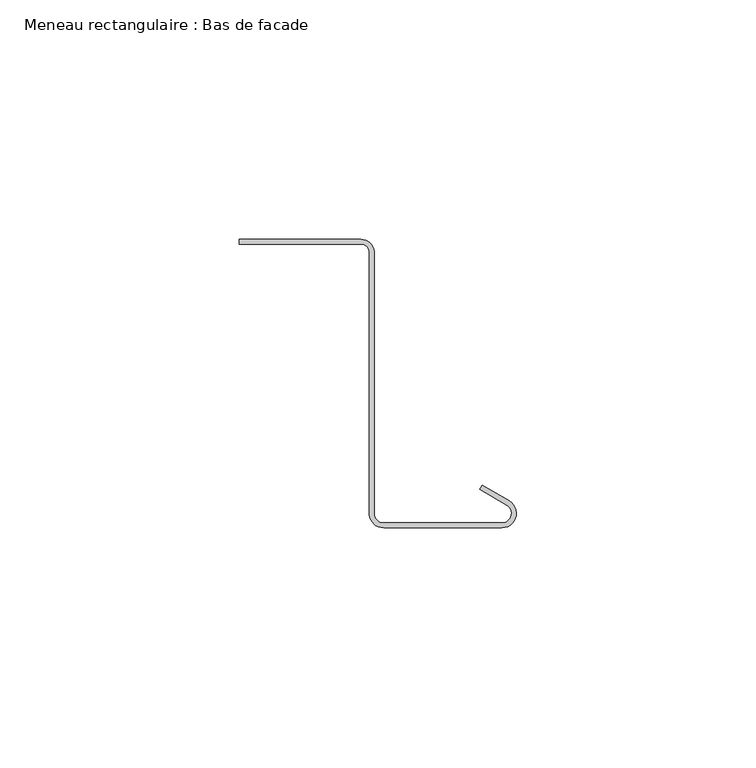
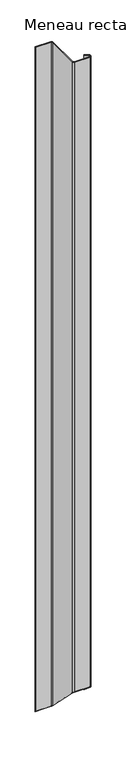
"""IFC4 building model written with IfcOpenShell, lengths in millimetres: member geometry, Meneau rectangulaire : Bas de facade."""

import ifcopenshell
import ifcopenshell.guid

model = None  # the IFC model being written
_history = None  # IfcOwnerHistory: only IFC2X3 demands one
_inside = {}  # id of a spatial element -> (the spatial element, [elements in it])
_under = {}  # id of a project, library or spatial element -> (it, [spatial elements below it])
_declared = {}  # id of a project -> (the project, [libraries it declares])
_typed = {}  # id of a type object -> (the type object, [elements of that type])
_made_of = {}  # id of a material, layer set ... -> (it, [elements and type objects made of it])


def new_model(schema):
    """Start an empty IFC model of exactly this schema.

    Asked for "IFC4X3", IfcOpenShell would pick the latest addendum, in which some entities
    have other attributes; the version numbers below select the first issue.
    IFC2X3 requires an IfcOwnerHistory on every rooted entity: one is made here for all.
    """
    global model, _history
    if schema == "IFC4X3":
        model = ifcopenshell.file(schema_version=(4, 3, 0, 0))
    else:
        model = ifcopenshell.file(schema=schema)
    _inside.clear()
    _under.clear()
    _declared.clear()
    _typed.clear()
    _made_of.clear()
    _history = None
    if model.schema == "IFC2X3":
        org = make("IfcOrganization", Name="unknown")
        user = make(
            "IfcPersonAndOrganization",
            ThePerson=make("IfcPerson", FamilyName="unknown"),
            TheOrganization=org,
        )
        app = make(
            "IfcApplication",
            ApplicationDeveloper=org,
            Version="unknown",
            ApplicationFullName="unknown",
            ApplicationIdentifier="unknown",
        )
        _history = make(
            "IfcOwnerHistory",
            OwningUser=user,
            OwningApplication=app,
            ChangeAction="ADDED",
            CreationDate=0,
        )
    return model


def make(cls, **values):
    """One entity of the class cls with the attributes given. An attribute that is None is left unset."""
    return model.create_entity(
        cls, **{name: value for name, value in values.items() if value is not None}
    )


def rooted(cls, **values):
    """An entity with a GlobalId (a new one), such as an element, a storey or a relation."""
    return make(cls, GlobalId=ifcopenshell.guid.new(), OwnerHistory=_history, **values)


def si_unit(unit_type, name, prefix=None):
    """IfcSIUnit, for example si_unit("LENGTHUNIT", "METRE", prefix="MILLI")."""
    return make("IfcSIUnit", UnitType=unit_type, Prefix=prefix, Name=name)


def assignment(units):
    """IfcUnitAssignment: the units of a project."""
    return None if units is None else make("IfcUnitAssignment", Units=units)


def point(xyz):
    """IfcCartesianPoint."""
    return None if xyz is None else make("IfcCartesianPoint", Coordinates=xyz)


def direction(xyz):
    """IfcDirection."""
    return None if xyz is None else make("IfcDirection", DirectionRatios=xyz)


def frame(location, z_axis=None, x_axis=None):
    """IfcAxis2Placement3D, a coordinate frame: its origin and axes. An axis left out is left unset."""
    return make(
        "IfcAxis2Placement3D",
        Location=point(location),
        Axis=direction(z_axis),
        RefDirection=direction(x_axis),
    )


def origin():
    """The frame at (0, 0, 0) with its axes left unset."""
    return frame((0.0, 0.0, 0.0))


def place(relative_to, where):
    """IfcLocalPlacement: puts the frame where relative to a parent placement (None: the world)."""
    return make(
        "IfcLocalPlacement", PlacementRelTo=relative_to, RelativePlacement=where
    )


def context(
    kind, dimensions, precision=None, world=None, true_north=None, identifier=None
):
    """IfcGeometricRepresentationContext, for example the 3D "Model" context."""
    return make(
        "IfcGeometricRepresentationContext",
        ContextIdentifier=identifier,
        ContextType=kind,
        CoordinateSpaceDimension=dimensions,
        Precision=precision,
        WorldCoordinateSystem=world,
        TrueNorth=true_north,
    )


def project(units=None, contexts=None):
    """IfcProject with its units and contexts."""
    return rooted(
        "IfcProject",
        Name="project",
        RepresentationContexts=contexts,
        UnitsInContext=assignment(units),
    )


def spatial(cls, under=None, at=None, **own):
    """A site, building, storey or space (cls), placed at a placement, below another one or the project."""
    s = rooted(cls, ObjectPlacement=at, **own)
    if under is not None:
        _under.setdefault(under.id(), (under, []))[1].append(s)
    return s


def polyline(points):
    """IfcPolyline through the points."""
    return make("IfcPolyline", Points=[point(p) for p in points])


def circle_curve(where, radius):
    """IfcCircle in the frame where."""
    return make("IfcCircle", Position=where, Radius=radius)


def ellipse_curve(where, semi_axis1, semi_axis2):
    """IfcEllipse in the frame where."""
    return make(
        "IfcEllipse", Position=where, SemiAxis1=semi_axis1, SemiAxis2=semi_axis2
    )


def shape(context_of_items, identifier, shape_type, items):
    """IfcShapeRepresentation: the items that make up one representation, for example the "Body"."""
    return make(
        "IfcShapeRepresentation",
        ContextOfItems=context_of_items,
        RepresentationIdentifier=identifier,
        RepresentationType=shape_type,
        Items=items,
    )


def source(mapping_origin, context_of_items, identifier, shape_type, items):
    """IfcRepresentationMap: a shape defined once, which mapped items show again and again."""
    return make(
        "IfcRepresentationMap",
        MappingOrigin=mapping_origin,
        MappedRepresentation=shape(context_of_items, identifier, shape_type, items),
    )


def transform(
    local_origin,
    x_axis=None,
    y_axis=None,
    z_axis=None,
    scale=None,
    scale2=None,
    scale3=None,
    uniform=True,
):
    """IfcCartesianTransformationOperator3D, or its non-uniform kind. x_axis, y_axis, z_axis: its Axis1, 2, 3."""
    if uniform:
        return make(
            "IfcCartesianTransformationOperator3D",
            Axis1=direction(x_axis),
            Axis2=direction(y_axis),
            LocalOrigin=point(local_origin),
            Scale=scale,
            Axis3=direction(z_axis),
        )
    return make(
        "IfcCartesianTransformationOperator3DnonUniform",
        Axis1=direction(x_axis),
        Axis2=direction(y_axis),
        LocalOrigin=point(local_origin),
        Scale=scale,
        Axis3=direction(z_axis),
        Scale2=scale2,
        Scale3=scale3,
    )


def mapped(mapping_source, mapping_target):
    """IfcMappedItem: shows the shape of a source again, moved by a transform."""
    return make(
        "IfcMappedItem", MappingSource=mapping_source, MappingTarget=mapping_target
    )


def made_of(thing, what):
    """Note that an element or type object is made of a material, layer set ...; save() writes the relation."""
    if what is not None:
        _made_of.setdefault(what.id(), (what, []))[1].append(thing)
    return thing


def element(
    cls,
    number,
    at=None,
    inside=None,
    cuts=None,
    type_object=None,
    material=None,
    context=None,
    identifier="Body",
    shape_type=None,
    held_by="IfcProductDefinitionShape",
    body=None,
    shapes=None,
    **own,
):
    """One element of the class cls, such as IfcWall. Its Tag is "e" and its number.

    at: its placement. inside: the storey or other place that contains it. cuts: it is an
    opening in that element (IfcRelVoidsElement). A single representation is given by context,
    identifier, shape_type and body (its items); several are given by shapes. held_by: the class
    of the entity that holds the representations. save() writes the other relations.
    """
    e = rooted(cls, Tag="e%d" % number, ObjectPlacement=at, **own)
    if body is not None:
        shapes = [shape(context, identifier, shape_type, body)]
    if shapes is not None:
        e.Representation = make(held_by, Representations=shapes)
    if inside is not None:
        _inside.setdefault(inside.id(), (inside, []))[1].append(e)
    if cuts is not None:
        rooted(
            "IfcRelVoidsElement", RelatingBuildingElement=cuts, RelatedOpeningElement=e
        )
    if type_object is not None:
        _typed.setdefault(type_object.id(), (type_object, []))[1].append(e)
    return made_of(e, material)


def aggregate(whole, parts):
    """IfcRelAggregates: a whole, such as a stair, and the parts it consists of."""
    return rooted("IfcRelAggregates", RelatingObject=whole, RelatedObjects=parts)


def save(model, path):
    """Write the relations noted so far, then the file.

    IfcRelAggregates (storeys below a building ...), IfcRelContainedInSpatialStructure (elements
    in a storey), IfcRelDefinesByType, IfcRelAssociatesMaterial and IfcRelDeclares: one each for
    every whole, place, type object, material and project.
    """
    for whole, parts in _under.values():
        aggregate(whole, parts)
    for where, things in _inside.values():
        rooted(
            "IfcRelContainedInSpatialStructure",
            RelatedElements=things,
            RelatingStructure=where,
        )
    for kind, things in _typed.values():
        rooted("IfcRelDefinesByType", RelatedObjects=things, RelatingType=kind)
    for what, things in _made_of.values():
        rooted("IfcRelAssociatesMaterial", RelatedObjects=things, RelatingMaterial=what)
    for by, libraries in _declared.values():
        rooted("IfcRelDeclares", RelatingContext=by, RelatedDefinitions=libraries)
    model.write(path)


def plane_surface(at):
    """IfcPlane: the flat surface through the origin of the frame at, square to its z axis."""
    return make("IfcPlane", Position=at)


def cylinder_surface(at, radius):
    """IfcCylindricalSurface: all points at the distance radius from the z axis of the frame at."""
    return make("IfcCylindricalSurface", Position=at, Radius=radius)


def revolved_surface(curve, axis_point, axis_direction):
    """IfcSurfaceOfRevolution: the curve turned about the line through axis_point along axis_direction."""
    return make(
        "IfcSurfaceOfRevolution",
        SweptCurve=make("IfcArbitraryOpenProfileDef", ProfileType="CURVE", Curve=curve),
        AxisPosition=make("IfcAxis1Placement", Location=point(axis_point), Axis=direction(axis_direction)),
    )


def advanced_brep(points, edges, surfaces, faces):
    """IfcAdvancedBrep: a solid bounded by faces that lie on surfaces and meet in shared edges.

    An edge is (start, end): straight between two places in points (the first is 0);
    or (start, end, curve); or (start, end, curve, False) where it runs against its curve.
    A face is (place in surfaces, loops), or (place, loops, False) where it looks against
    its surface's normal. A loop lists edges by number (the first is 1), with a minus sign
    where the edge is run from its end to its start. The first loop is the outer one.
    """
    corners = [point(p) for p in points]
    vertices = [make("IfcVertexPoint", VertexGeometry=c) for c in corners]
    made = []
    for start, end, *more in edges:
        made.append(
            make(
                "IfcEdgeCurve",
                EdgeStart=vertices[start],
                EdgeEnd=vertices[end],
                EdgeGeometry=more[0] if more else make("IfcPolyline", Points=[corners[start], corners[end]]),
                SameSense=more[1] if len(more) > 1 else True,
            )
        )
    hull = []
    for where, loops, *sense in faces:
        bounds = []
        for j, loop in enumerate(loops):
            ring = [make("IfcOrientedEdge", EdgeElement=made[abs(k) - 1], Orientation=k > 0) for k in loop]
            bounds.append(
                make(
                    "IfcFaceOuterBound" if j == 0 else "IfcFaceBound",
                    Bound=make("IfcEdgeLoop", EdgeList=ring),
                    Orientation=True,
                )
            )
        hull.append(make("IfcAdvancedFace", Bounds=bounds, FaceSurface=surfaces[where], SameSense=sense[0] if sense else True))
    return make("IfcAdvancedBrep", Outer=make("IfcClosedShell", CfsFaces=hull))


def meneau_rectangulaire_bas_de_facade_3b02e56c(model_context):
    return source(origin(), model_context, "Body", "AdvancedBrep", [
        advanced_brep(
        [(-32.4584179, 2.9588923, 0.0), (-57.8548383, 2.9588923, 0.0), (-57.8548383, 1.9588923, 0.0), (-32.4584179, 1.9588923, 0.0), (-30.7239521, 0.4415475, 0.0), (-30.7239521, -54.522067, 0.0), (-27.735368, -57.2605998, 0.0), (-3.0, -57.2605998, 0.0), (-1.5, -51.6625235, 0.0), (-7.1638061, -48.3925235, 0.0), (-7.6638061, -49.258549, 0.0), (-2.0, -52.528549, 0.0), (-3.0, -56.2605998, 0.0), (-27.735368, -56.2605998, 0.0), (-29.7143802, -54.5495817, 0.0), (-29.7143802, 0.3898824, 0.0), (-32.4584179, 2.9588923, -1149.625559), (-57.8548383, 2.9588923, -1149.625559), (-57.8548383, 1.9588923, -1148.625559), (-32.4584179, 1.9588923, -1148.625559), (-30.7239521, 0.4415475, -1147.1082142), (-30.7239521, -54.522067, -1092.1445997), (-27.735368, -57.2605998, -1089.4060669), (-3.0, -57.2605998, -1089.4060669), (-1.5, -51.6625235, -1095.0041431), (-7.1638061, -48.3925235, -1098.2741431), (-7.6638061, -49.258549, -1097.4081177), (-2.0, -52.528549, -1094.1381177), (-3.0, -56.2605998, -1090.4060669), (-27.735368, -56.2605998, -1090.4060669), (-29.7143802, -54.5495817, -1092.117085), (-29.7143802, 0.3898824, -1147.0565491)],
        [
            (0, 1),
            (1, 2),
            (2, 3),
            (3, 4, circle_curve(frame((-32.4584179, 0.2088923, 0.0), z_axis=(0.0, 0.0, -1.0), x_axis=(0.0, 1.0, 0.0)), 1.75)),
            (4, 5),
            (5, 6, circle_curve(frame((-27.735368, -54.2605998, 0.0), z_axis=(0.0, 0.0, 1.0), x_axis=(-0.9961946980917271, -0.08715574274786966, 0.0)), 3.0)),
            (6, 7),
            (7, 8, circle_curve(frame((-3.0, -54.2605998, 0.0), z_axis=(0.0, 0.0, 1.0), x_axis=(0.0, -1.0, 0.0)), 3.0)),
            (8, 9),
            (9, 10),
            (10, 11),
            (11, 12, circle_curve(frame((-3.0, -54.2605998, 0.0), z_axis=(0.0, 0.0, -1.0), x_axis=(0.0, -1.0, 0.0)), 2.0)),
            (12, 13),
            (13, 14, circle_curve(frame((-27.735368, -54.2605998, 0.0), z_axis=(0.0, 0.0, -1.0), x_axis=(-0.9961946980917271, -0.08715574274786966, 0.0)), 2.0)),
            (14, 15),
            (15, 0, circle_curve(frame((-32.4584179, 0.2088923, 0.0), z_axis=(0.0, 0.0, 1.0), x_axis=(0.0, 1.0, 0.0)), 2.75)),
            (0, 16),
            (16, 17),
            (17, 1),
            (17, 18),
            (18, 2),
            (18, 19),
            (19, 3),
            (19, 20, ellipse_curve(frame((-32.4584179, 0.2088923, -1146.875559), z_axis=(0.0, -0.7071067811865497, -0.7071067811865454), x_axis=(0.0, 0.7071067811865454, -0.7071067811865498)), 2.4748737, 1.75)),
            (20, 4),
            (20, 21),
            (21, 5),
            (21, 22, ellipse_curve(frame((-27.735368, -54.2605998, -1092.4060669), z_axis=(0.0, 0.7071067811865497, 0.7071067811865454), x_axis=(0.0, -0.7071067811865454, 0.7071067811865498)), 4.2426407, 3.0)),
            (22, 6),
            (22, 23),
            (23, 7),
            (23, 24, ellipse_curve(frame((-3.0, -54.2605998, -1092.4060669), z_axis=(0.0, 0.7071067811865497, 0.7071067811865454), x_axis=(0.0, -0.7071067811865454, 0.7071067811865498)), 4.2426407, 3.0)),
            (24, 8),
            (24, 25),
            (25, 9),
            (25, 26),
            (26, 10),
            (26, 27),
            (27, 11),
            (27, 28, ellipse_curve(frame((-3.0, -54.2605998, -1092.4060669), z_axis=(0.0, -0.7071067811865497, -0.7071067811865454), x_axis=(0.0, 0.7071067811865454, -0.7071067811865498)), 2.8284271, 2.0)),
            (28, 12),
            (28, 29),
            (29, 13),
            (29, 30, ellipse_curve(frame((-27.735368, -54.2605998, -1092.4060669), z_axis=(0.0, -0.7071067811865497, -0.7071067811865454), x_axis=(0.0, 0.7071067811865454, -0.7071067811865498)), 2.8284271, 2.0)),
            (30, 14),
            (30, 31),
            (31, 15),
            (31, 16, ellipse_curve(frame((-32.4584179, 0.2088923, -1146.875559), z_axis=(0.0, 0.7071067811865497, 0.7071067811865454), x_axis=(0.0, -0.7071067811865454, 0.7071067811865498)), 3.8890873, 2.75)),
        ],
        [
            plane_surface(frame((0.0, -63.8351035, 0.0), z_axis=(0.0, 0.0, 1.0), x_axis=(-1.0, 0.0, 0.0))),
            plane_surface(frame((-32.4584179, 2.9588923, 0.0), z_axis=(0.0, 1.0, 0.0), x_axis=(0.0, 0.0, -1.0))),
            plane_surface(frame((-57.8548383, 2.9588923, 0.0), z_axis=(-1.0, 0.0, 0.0), x_axis=(0.0, 0.0, -1.0))),
            plane_surface(frame((-57.8548383, 1.9588923, 0.0), z_axis=(0.0, -1.0, 0.0), x_axis=(0.0, 0.0, -1.0))),
            revolved_surface(polyline([(-32.4584179, 1.9588923, -1148.625559), (-32.4584179, 1.9588923, 0.0)]), (-32.4584179, 0.2088923, 0.0), (0.0, 0.0, -1.0)),
            plane_surface(frame((-30.7239521, 0.4415475, 0.0), z_axis=(-1.0, 0.0, 0.0), x_axis=(0.0, 0.0, -1.0))),
            cylinder_surface(frame((-27.735368, -54.2605998, 0.0), z_axis=(0.0, 0.0, 1.0000000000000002), x_axis=(-0.9961946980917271, -0.08715574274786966, 0.0)), 3.0),
            plane_surface(frame((-27.735368, -57.2605998, 0.0), z_axis=(0.0, -1.0, 0.0), x_axis=(0.0, 0.0, -1.0))),
            cylinder_surface(frame((-3.0, -54.2605998, 0.0), z_axis=(0.0, 0.0, 1.0), x_axis=(0.0, -1.0, 0.0)), 3.0),
            plane_surface(frame((-1.5, -51.6625235, 0.0), z_axis=(0.5000000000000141, 0.8660254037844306, 0.0), x_axis=(0.0, 0.0, -1.0))),
            plane_surface(frame((-7.1638061, -48.3925235, 0.0), z_axis=(-0.8660254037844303, 0.5000000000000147, 0.0), x_axis=(0.0, 0.0, -1.0))),
            plane_surface(frame((-7.6638061, -49.258549, 0.0), z_axis=(-0.500000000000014, -0.8660254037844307, 0.0), x_axis=(0.0, 0.0, -1.0))),
            revolved_surface(polyline([(-3.0, -56.2605998, -1094.4060668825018), (-3.0, -56.2605998, 0.0)]), (-3.0, -54.2605998, 0.0), (0.0, 0.0, -1.0)),
            plane_surface(frame((-3.0, -56.2605998, 0.0), z_axis=(0.0, 1.0, 0.0), x_axis=(0.0, 0.0, -1.0))),
            revolved_surface(polyline([(-29.727757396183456, -54.434911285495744, -1094.4060668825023), (-29.727757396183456, -54.434911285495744, 0.0)]), (-27.735368, -54.2605998, 0.0), (0.0, 0.0, -1.0000000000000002)),
            plane_surface(frame((-29.7143802, -54.5495817, 0.0), z_axis=(1.0, 0.0, 0.0), x_axis=(0.0, 0.0, -1.0))),
            cylinder_surface(frame((-32.4584179, 0.2088923, 0.0), z_axis=(0.0, 0.0, 1.0), x_axis=(0.0, 1.0, 0.0)), 2.75),
            plane_surface(frame((304.8, 0.0, -1146.6666667), z_axis=(0.0, -0.7071067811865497, -0.7071067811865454), x_axis=(0.0, -0.7071067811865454, 0.7071067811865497))),
        ],
        [
            (0, [[1, 2, 3, 4, 5, 6, 7, 8, 9, 10, 11, 12, 13, 14, 15, 16]]),
            (1, [[-1, 17, 18, 19]]),
            (2, [[-2, -19, 20, 21]]),
            (3, [[-3, -21, 22, 23]]),
            (4, [[-4, -23, 24, 25]]),
            (5, [[-5, -25, 26, 27]]),
            (6, [[-6, -27, 28, 29]]),
            (7, [[-7, -29, 30, 31]]),
            (8, [[-8, -31, 32, 33]]),
            (9, [[-9, -33, 34, 35]]),
            (10, [[-10, -35, 36, 37]]),
            (11, [[-11, -37, 38, 39]]),
            (12, [[-12, -39, 40, 41]]),
            (13, [[-13, -41, 42, 43]]),
            (14, [[-14, -43, 44, 45]]),
            (15, [[-15, -45, 46, 47]]),
            (16, [[-16, -47, 48, -17]]),
            (17, [[-48, -46, -44, -42, -40, -38, -36, -34, -32, -30, -28, -26, -24, -22, -20, -18]]),
        ],
    ),
    ])


if __name__ == "__main__":
    model = new_model("IFC4")
    model_context = context("Model", 3, world=origin())
    ifc_project = project(units=[si_unit("LENGTHUNIT", "METRE", prefix="MILLI")], contexts=[model_context])
    site = spatial("IfcSite", under=ifc_project)
    building = spatial("IfcBuilding", under=site)
    placement = place(None, origin())
    meneau_rectangulaire_bas_de_facade_shape = meneau_rectangulaire_bas_de_facade_3b02e56c(model_context)
    element("IfcMember", 1, ObjectType="Meneau rectangulaire : Bas de facade", at=placement, inside=building, context=model_context, shape_type="MappedRepresentation", body=[
        mapped(meneau_rectangulaire_bas_de_facade_shape, transform((0.0, 0.0, 0.0), x_axis=(1.0, 0.0, 0.0), y_axis=(0.0, 1.0, 0.0), z_axis=(0.0, 0.0, 1.0))),
    ])
    save(model, "model.ifc")
